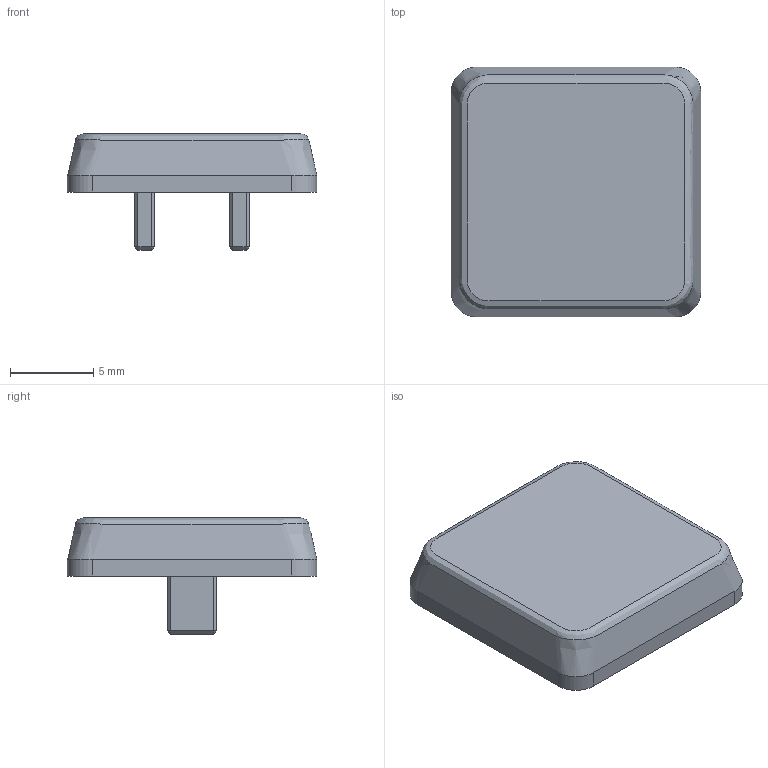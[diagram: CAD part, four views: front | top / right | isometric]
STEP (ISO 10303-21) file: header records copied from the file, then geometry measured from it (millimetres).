
FILE_DESCRIPTION(/* description */ (''),/* implementation_level */ '2;1');
FILE_NAME(/* name */ 'button_none.step',/* time_stamp */ '2026-07-06T12:55:29-05:00',/* author */ (''),/* organization */ (''),/* preprocessor_version */ 'ST-DEVELOPER v20.1',/* originating_system */ 'Autodesk Translation Framework v15.8.0.0',/* authorisation */ '');
FILE_SCHEMA (('AUTOMOTIVE_DESIGN { 1 0 10303 214 3 1 1 }'));
Length unit declared in the file: millimetre
Products named in the file (1): SaturnixLite_Hull
Bounding box: 15 x 15 x 7 mm (x, y, z)
Volume: 667.6 mm3; surface area: 694.7 mm2
Topology: 1 solids, 1 shells, 55 faces, 132 edges, 82 vertices
Faces by surface type: plane 45, cylinder 8, bspline 2
Entity records: 2451 total; most frequent: CARTESIAN_POINT 1159, ORIENTED_EDGE 264, DIRECTION 247, EDGE_CURVE 132, LINE 105, VECTOR 105, VERTEX_POINT 82, AXIS2_PLACEMENT_3D 71
